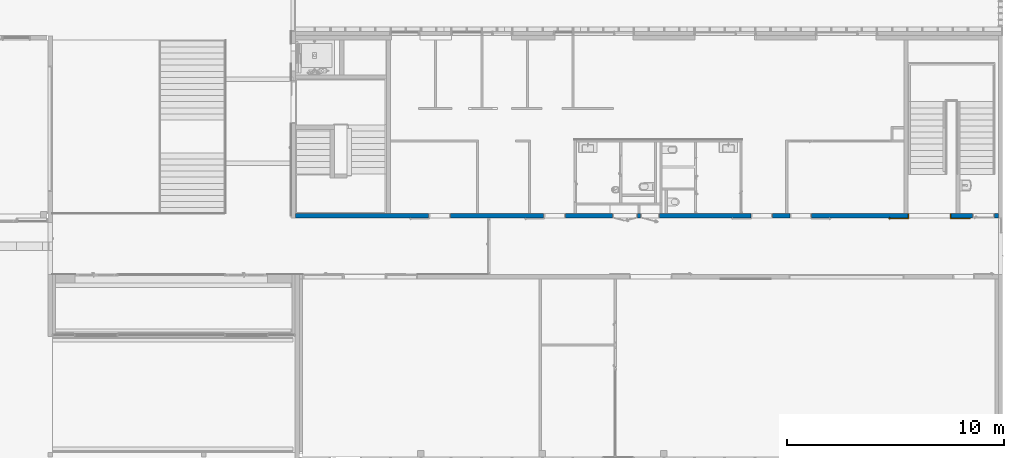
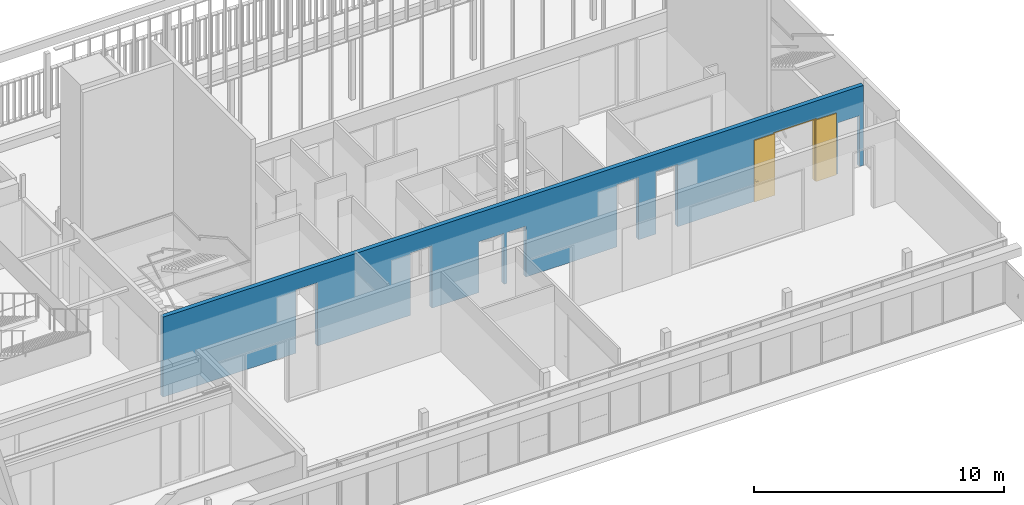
# One storey, part 164 of 240: 1 door, 1 wall, 8 openings.
"""IFC2X3 building model written with IfcOpenShell, lengths in centimetres."""

from ifc_helpers import new_model, entity, si_unit, converted_unit, derived_unit, direction, frame, frame_2d, origin, place, context, subcontext, project, spatial, polyline, rectangle, extrude, clip, bounded_halfspace, faceted_brep, source, transform, mapped, material, material_list, layer, layer_set, layer_usage, type_object, type_shapes, element, fill, save


model = new_model("IFC2X3")

# Units and contexts
model_context = context("Model", 3, precision=0.001, world=origin(), true_north=direction((6.12303176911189e-17, 1.0)))
body_context = subcontext(model_context, "Body", "Model", "MODEL_VIEW")
ifc_project = project(units=[si_unit("LENGTHUNIT", "METRE", prefix="CENTI"), si_unit("AREAUNIT", "SQUARE_METRE"), si_unit("VOLUMEUNIT", "CUBIC_METRE"), converted_unit("PLANEANGLEUNIT", "DEGREE", entity("IfcRatioMeasure", 0.0174532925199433), si_unit("PLANEANGLEUNIT", "RADIAN"), dimensions=[0, 0, 0, 0, 0, 0, 0]), si_unit("MASSUNIT", "GRAM", prefix="KILO"), derived_unit("MASSDENSITYUNIT", [(si_unit("MASSUNIT", "GRAM", prefix="KILO"), 1), (si_unit("LENGTHUNIT", "METRE"), -3)]), si_unit("TIMEUNIT", "SECOND"), si_unit("FREQUENCYUNIT", "HERTZ"), si_unit("THERMODYNAMICTEMPERATUREUNIT", "DEGREE_CELSIUS"), derived_unit("THERMALTRANSMITTANCEUNIT", [(si_unit("MASSUNIT", "GRAM", prefix="KILO"), 1), (si_unit("THERMODYNAMICTEMPERATUREUNIT", "KELVIN"), -1), (si_unit("TIMEUNIT", "SECOND"), -3)]), derived_unit("VOLUMETRICFLOWRATEUNIT", [(si_unit("LENGTHUNIT", "METRE"), 3), (si_unit("TIMEUNIT", "SECOND"), -1)]), si_unit("ELECTRICCURRENTUNIT", "AMPERE"), si_unit("ELECTRICVOLTAGEUNIT", "VOLT"), si_unit("POWERUNIT", "WATT"), si_unit("FORCEUNIT", "NEWTON", prefix="KILO"), si_unit("ILLUMINANCEUNIT", "LUX"), si_unit("LUMINOUSFLUXUNIT", "LUMEN"), si_unit("LUMINOUSINTENSITYUNIT", "CANDELA"), derived_unit("USERDEFINED", [(si_unit("MASSUNIT", "GRAM", prefix="KILO"), -1), (si_unit("LENGTHUNIT", "METRE"), -2), (si_unit("TIMEUNIT", "SECOND"), 3), (si_unit("LUMINOUSFLUXUNIT", "LUMEN"), 1)]), derived_unit("LINEARVELOCITYUNIT", [(si_unit("LENGTHUNIT", "METRE"), 1), (si_unit("TIMEUNIT", "SECOND"), -1)]), si_unit("PRESSUREUNIT", "PASCAL"), derived_unit("USERDEFINED", [(si_unit("LENGTHUNIT", "METRE"), -2), (si_unit("MASSUNIT", "GRAM", prefix="KILO"), 1), (si_unit("TIMEUNIT", "SECOND"), -2)])], contexts=[model_context])

# Site, building, storey
site_placement = place(None, frame((-2781.94577612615, 7442.24238424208, 0.0)))
site = spatial("IfcSite", under=ifc_project, at=site_placement, Name="Default", CompositionType="ELEMENT")
building_placement = place(site_placement, origin())
building = spatial("IfcBuilding", under=site, at=building_placement, CompositionType="ELEMENT")
storey_placement = place(building_placement, origin())
storey = spatial("IfcBuildingStorey", under=building, at=storey_placement, Name="N00 - COO", CompositionType="ELEMENT", Elevation=0.0)

# Wall, openings, door
ifc_material_1 = material(Name="01 - Maçonnerie")
ifc_layer = layer(ifc_material_1, 20.0)
ifc_layer_set = layer_set([ifc_layer], Name="Mur de base:04 - Structure - béton - 20cm")
ifc_layer_usage = layer_usage(ifc_layer_set, "AXIS2", "NEGATIVE", 10.0)
wall_type = type_object("IfcWallType", Name="Mur de base:04 - Structure - béton - 20cm", PredefinedType="STANDARD", material=ifc_layer_set)
wall_placement = place(building_placement, frame((-3647.99987968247, -1920.07903364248, 0.0)))
wall = element("IfcWallStandardCase", 1, at=wall_placement, inside=storey, type_object=wall_type, material=ifc_layer_usage, Name="Mur de base:04 - Structure - béton - 20cm", ObjectType="Mur de base:04 - Structure - béton - 20cm", context=body_context, shape_type="Clipping", body=[
    clip(extrude(rectangle(XDim=3237.99999684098, YDim=19.9999999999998, at=frame_2d((1618.99999842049, -2.66453525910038e-15), x_axis=(-1.0, 0.0))), origin(), (0.0, 0.0, 1.0), 391.0), bounded_halfspace(frame((0.0, -10.0, 391.0), z_axis=(0.0, 0.0, -1.0), x_axis=(0.0, 1.0, 0.0)), True, frame((0.0, -10.0, 391.0)), polyline([(0.0, 0.0), (3238.0, 0.0), (3238.0, 20.0), (3062.69999684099, 20.0), (3042.69999684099, 20.0), (2268.49999684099, 20.0), (2258.49999684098, 20.0), (2058.49999684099, 20.0), (2048.49999684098, 20.0), (1848.49999684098, 20.0), (1838.49999684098, 20.0), (1713.49999684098, 20.0), (1703.49999684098, 20.0), (1293.99999684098, 20.0), (1283.99999684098, 20.0), (1083.99999684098, 20.0), (1073.99999684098, 20.0), (843.999996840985, 20.0), (833.999996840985, 20.0), (438.699996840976, 20.0), (0.0, 20.0), (0.0, 0.0)]))),
])
opening_1_placement = place(wall_placement, frame((3019.69999684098, 10.0, 0.0)))
opening_1 = element("IfcOpeningElement", 2, at=opening_1_placement, cuts=wall, Name="Int. Double:PP (1.90m x 3.00m):1", ObjectType="Opening", context=body_context, shape_type="SweptSolid", body=[
    extrude(rectangle(XDim=304.500000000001, YDim=197.0, at=frame_2d((152.250000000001, 98.5), x_axis=(1.0, 0.0))), frame((0.0, 0.0, 0.0), z_axis=(0.0, -1.0, 0.0), x_axis=(0.0, 0.0, 1.0)), (0.0, 0.0, 1.0), 20.0),
])
opening_2_placement = place(wall_placement, frame((1243.99999684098, 10.0, 0.0)))
element("IfcOpeningElement", 3, at=opening_2_placement, cuts=wall, Name="Int. Simple:PV (0.93m x 3.00m):1", ObjectType="Opening", context=body_context, shape_type="SweptSolid", body=[
    extrude(rectangle(XDim=304.500000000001, YDim=99.9999999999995, at=frame_2d((152.250000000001, 49.9999999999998), x_axis=(1.0, 0.0))), frame((0.0, 0.0, 0.0), z_axis=(0.0, -1.0, 0.0), x_axis=(0.0, 0.0, 1.0)), (0.0, 0.0, 1.0), 20.0),
])
opening_3_placement = place(wall_placement, frame((2198.49999684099, 10.0, 0.0)))
element("IfcOpeningElement", 4, at=opening_3_placement, cuts=wall, Name="Int. Simple:PV (0.93m x 3.00m):1", ObjectType="Opening", context=body_context, shape_type="SweptSolid", body=[
    extrude(rectangle(XDim=304.500000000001, YDim=99.9999999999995, at=frame_2d((152.250000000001, 49.9999999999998), x_axis=(1.0, 0.0))), frame((0.0, 0.0, 0.0), z_axis=(0.0, -1.0, 0.0), x_axis=(0.0, 0.0, 1.0)), (0.0, 0.0, 1.0), 20.0),
])
opening_4_placement = place(wall_placement, frame((713.999996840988, 10.0, 0.0)))
element("IfcOpeningElement", 5, at=opening_4_placement, cuts=wall, Name="Int. Simple:PP (0.93m x 3.06m):1", ObjectType="Opening", context=body_context, shape_type="SweptSolid", body=[
    extrude(rectangle(XDim=309.500000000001, YDim=99.9999999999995, at=frame_2d((154.750000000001, 49.9999999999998), x_axis=(1.0, 0.0))), frame((0.0, 0.0, 0.0), z_axis=(0.0, -1.0, 0.0), x_axis=(0.0, 0.0, 1.0)), (0.0, 0.0, 1.0), 20.0),
])
opening_5_placement = place(wall_placement, frame((1576.99999684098, 10.0, 0.0)))
element("IfcOpeningElement", 6, at=opening_5_placement, cuts=wall, Name="Int. Double:PP Placard (1.10m x 2.50m):1", ObjectType="Opening", context=body_context, shape_type="SweptSolid", body=[
    extrude(rectangle(XDim=248.500000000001, YDim=117.0, at=frame_2d((124.250000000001, 58.5000000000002), x_axis=(1.0, 0.0))), frame((0.0, 0.0, 0.0), z_axis=(0.0, -1.0, 0.0), x_axis=(0.0, 0.0, 1.0)), (0.0, 0.0, 1.0), 20.0),
])
opening_6_placement = place(wall_placement, frame((1677.0, 10.0, 0.0)))
element("IfcOpeningElement", 7, at=opening_6_placement, cuts=wall, Name="Int. Simple:PP Placard (0.80m x 2.50m):1", ObjectType="Opening", context=body_context, shape_type="SweptSolid", body=[
    extrude(rectangle(XDim=248.500000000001, YDim=86.9999999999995, at=frame_2d((124.250000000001, 43.4999999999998), x_axis=(1.0, 0.0))), frame((0.0, 0.0, 0.0), z_axis=(0.0, -1.0, 0.0), x_axis=(0.0, 0.0, 1.0)), (0.0, 0.0, 1.0), 20.0),
])
opening_7_placement = place(wall_placement, frame((2378.49999684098, 10.0, 0.0)))
element("IfcOpeningElement", 8, at=opening_7_placement, cuts=wall, Name="Int. Simple:PV (0.93m x 3.00m):1", ObjectType="Opening", context=body_context, shape_type="SweptSolid", body=[
    extrude(rectangle(XDim=304.500000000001, YDim=99.9999999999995, at=frame_2d((152.250000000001, 49.9999999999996), x_axis=(1.0, 0.0))), frame((0.0, 0.0, 0.0), z_axis=(0.0, -1.0, 0.0), x_axis=(0.0, 0.0, 1.0)), (0.0, 0.0, 1.0), 20.0),
])
opening_8_placement = place(wall_placement, frame((3220.0, 10.0, 0.0)))
element("IfcOpeningElement", 9, at=opening_8_placement, cuts=wall, Name="Int. Simple:PP simple (0.93m x 2.50m):1", ObjectType="Opening", context=body_context, shape_type="SweptSolid", body=[
    extrude(rectangle(XDim=248.500000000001, YDim=99.9999999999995, at=frame_2d((124.250000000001, 49.9999999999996), x_axis=(1.0, 0.0))), frame((0.0, 0.0, 0.0), z_axis=(0.0, -1.0, 0.0), x_axis=(0.0, 0.0, 1.0)), (0.0, 0.0, 1.0), 20.0),
])
ifc_material_2 = material(Name="Bois - Panneau de porte")
ifc_material_3 = material(Name="Finition Peinture - Blanc satiné")
ifc_material_4 = material(Name="Bois - Cadre de porte")
ifc_material_list_1 = material_list([ifc_material_2, ifc_material_3, ifc_material_4])
ifc_material_list_2 = material_list([ifc_material_2, ifc_material_3, ifc_material_4])
door_style = type_object("IfcDoorStyle", Name="PP (1.90m x 3.00m)", ConstructionType="NOTDEFINED", OperationType="DOUBLE_DOOR_SINGLE_SWING", ParameterTakesPrecedence=False, Sizeable=False, material=ifc_material_list_2)
shared_shape = source(origin(), body_context, "Body", "Brep", [
    faceted_brep([(295.500000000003, -4.0, 301.0), (200.500000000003, -4.0, 301.0), (200.500000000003, -4.0, 0.0), (295.500000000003, -4.0, 0.0), (295.500000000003, 0.0, 301.0), (295.500000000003, 0.0, 0.0), (200.500000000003, 0.0, 0.0), (200.500000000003, 0.0, 301.0)], [[[0, 1, 2, 3]], [[4, 5, 6, 7]], [[1, 0, 4, 7]], [[2, 1, 7, 6]], [[3, 2, 6, 5]], [[0, 3, 5, 4]]]),
    faceted_brep([(-80.4999999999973, 0.499999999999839, 87.0), (-80.4999999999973, 0.499999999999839, 108.0), (-79.5352761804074, 0.499999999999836, 108.399601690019), (-78.4999999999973, 0.499999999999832, 108.535898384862), (-77.4647238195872, 0.499999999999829, 108.399601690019), (-76.4999999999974, 0.499999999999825, 108.0), (-76.4999999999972, 0.499999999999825, 87.0), (-77.4647238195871, 0.499999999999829, 86.6003983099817), (-78.4999999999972, 0.499999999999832, 86.464101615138), (-79.5352761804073, 0.499999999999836, 86.6003983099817), (-80.4999999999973, 0.0, 108.0), (-80.4999999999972, 0.0, 87.0), (-79.5352761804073, 0.0, 86.6003983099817), (-78.4999999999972, 0.0, 86.464101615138), (-77.4647238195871, 0.0, 86.6003983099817), (-76.4999999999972, 0.0, 87.0), (-76.4999999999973, 0.0, 108.0), (-77.4647238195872, 0.0, 108.399601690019), (-78.4999999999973, 0.0, 108.535898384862), (-79.5352761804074, 0.0, 108.399601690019)], [[[0, 1, 2, 3, 4, 5, 6, 7, 8, 9]], [[10, 11, 12, 13, 14, 15, 16, 17, 18, 19]], [[9, 12, 11, 0]], [[8, 13, 12, 9]], [[7, 14, 13, 8]], [[7, 6, 15, 14]], [[15, 6, 5, 16]], [[4, 17, 16, 5]], [[3, 18, 17, 4]], [[2, 19, 18, 3]], [[2, 1, 10, 19]], [[11, 10, 1, 0]]]),
    faceted_brep([(-80.4999999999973, -4.0, 87.0), (-80.4999999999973, -4.0, 108.0), (-79.5352761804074, -4.0, 108.399601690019), (-78.4999999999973, -4.0, 108.535898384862), (-77.4647238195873, -4.0, 108.399601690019), (-76.4999999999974, -4.0, 108.0), (-76.4999999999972, -4.0, 87.0), (-77.4647238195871, -4.0, 86.6003983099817), (-78.4999999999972, -4.0, 86.464101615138), (-79.5352761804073, -4.0, 86.6003983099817), (-78.4999999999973, -4.50000000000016, 108.535898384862), (-79.5352761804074, -4.50000000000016, 108.399601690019), (-80.4999999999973, -4.50000000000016, 108.0), (-80.4999999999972, -4.50000000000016, 87.0), (-79.5352761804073, -4.50000000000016, 86.6003983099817), (-78.4999999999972, -4.50000000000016, 86.464101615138), (-77.4647238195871, -4.50000000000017, 86.6003983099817), (-76.4999999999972, -4.50000000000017, 87.0), (-76.4999999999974, -4.50000000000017, 108.0), (-77.4647238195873, -4.50000000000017, 108.399601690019)], [[[0, 1, 2, 3, 4, 5, 6, 7, 8, 9]], [[10, 11, 12, 13, 14, 15, 16, 17, 18, 19]], [[4, 19, 18, 5]], [[3, 10, 19, 4]], [[2, 11, 10, 3]], [[2, 1, 12, 11]], [[13, 12, 1, 0]], [[9, 14, 13, 0]], [[8, 15, 14, 9]], [[7, 16, 15, 8]], [[7, 6, 17, 16]], [[17, 6, 5, 18]]]),
    faceted_brep([(-78.2974701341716, 0.499999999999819, 100.778044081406), (-78.7025298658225, 0.49999999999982, 100.778044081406), (-79.0999999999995, 0.499999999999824, 100.699999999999), (-79.1000000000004, 0.499999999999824, 99.2999999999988), (-78.7025298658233, 0.49999999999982, 99.221955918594), (-78.2974701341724, 0.499999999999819, 99.2219559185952), (-77.8999999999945, 0.499999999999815, 99.3000000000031), (-77.8999999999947, 0.499999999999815, 100.7), (-78.7025298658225, 3.10045754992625, 100.778044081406), (-79.0999999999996, 3.26509507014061, 100.7), (-78.2974701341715, 2.93267631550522, 100.778044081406), (-76.9298602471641, 4.30028620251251, 100.778044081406), (-77.0976414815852, 4.70534593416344, 100.778044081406), (-77.8999999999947, 2.76803879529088, 100.7), (-77.8999999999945, 2.76803879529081, 99.3000000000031), (-78.2974701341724, 2.93267631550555, 99.2219559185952), (-78.7025298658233, 3.10045754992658, 99.221955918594), (-77.0976414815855, 4.70534593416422, 99.221955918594), (-76.9298602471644, 4.3002862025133, 99.2219559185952), (-79.1000000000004, 3.26509507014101, 99.2999999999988), (-77.2622790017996, 5.10281606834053, 100.7), (-76.7652227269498, 3.9028160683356, 100.7), (-76.7652227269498, 3.90281606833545, 99.3000000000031), (-77.2622790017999, 5.10281606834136, 99.2999999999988), (-68.4981359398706, 5.10281606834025, 100.7), (-68.4981359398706, 4.70534593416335, 100.778044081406), (-68.4981359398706, 4.30028620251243, 100.778044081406), (-68.4981359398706, 3.90281606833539, 100.699999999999), (-68.4981359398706, 3.90281606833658, 99.3000000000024), (-68.4981359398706, 4.30028620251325, 99.2219559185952), (-68.4981359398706, 4.70534593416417, 99.221955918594), (-68.4981359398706, 5.10281606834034, 99.2999999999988), (-72.7139980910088, 4.50281606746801, 100.78786867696), (-73.2692302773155, 5.10281606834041, 100.7), (-72.6316793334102, 3.90281606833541, 100.7), (-72.6316793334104, 3.90281606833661, 99.3000000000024), (-72.7139981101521, 4.50281607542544, 99.2121313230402), (-73.2692310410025, 5.10281606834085, 99.2999999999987)], [[[0, 1, 2, 3, 4, 5, 6, 7]], [[2, 1, 8, 9]], [[1, 0, 10, 11, 12, 8]], [[0, 7, 13, 10]], [[14, 13, 7, 6]], [[5, 15, 14, 6]], [[5, 4, 16, 17, 18, 15]], [[3, 19, 16, 4]], [[9, 19, 3, 2]], [[9, 8, 12, 20]], [[10, 13, 21, 11]], [[22, 21, 13, 14]], [[14, 15, 18, 22]], [[16, 19, 23, 17]], [[20, 23, 19, 9]], [[24, 25, 26, 27, 28, 29, 30, 31]], [[32, 25, 33]], [[33, 25, 24]], [[33, 20, 12]], [[11, 34, 32]], [[34, 11, 21]], [[27, 26, 34]], [[32, 26, 25]], [[32, 34, 26]], [[32, 33, 12]], [[11, 32, 12]], [[21, 22, 35, 28, 27, 34]], [[36, 29, 35]], [[30, 36, 37]], [[18, 35, 22]], [[29, 28, 35]], [[30, 37, 31]], [[37, 17, 23]], [[36, 17, 37]], [[36, 18, 17]], [[36, 35, 18]], [[29, 36, 30]], [[23, 20, 33, 24, 31, 37]]]),
    faceted_brep([(-78.2974701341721, -4.50000000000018, 99.2219559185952), (-78.702529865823, -4.50000000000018, 99.221955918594), (-79.0999999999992, -4.50000000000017, 99.2999999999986), (-79.0999999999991, -4.50000000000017, 100.7), (-78.7025298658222, -4.50000000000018, 100.778044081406), (-78.2974701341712, -4.50000000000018, 100.778044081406), (-77.8999999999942, -4.50000000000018, 100.7), (-77.8999999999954, -4.50000000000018, 99.3000000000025), (-77.8999999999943, -6.74852045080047, 100.7), (-77.8999999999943, -6.74852045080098, 99.3000000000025), (-78.2974701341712, -6.91315797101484, 100.778044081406), (-78.7025298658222, -7.08093920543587, 100.778044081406), (-77.0838906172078, -8.69957845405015, 100.778044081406), (-76.9161093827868, -8.29451872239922, 100.778044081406), (-79.0999999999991, -7.2455767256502, 100.7), (-79.0999999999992, -7.24557672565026, 99.2999999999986), (-78.7025298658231, -7.08093920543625, 99.221955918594), (-78.2974701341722, -6.91315797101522, 99.2219559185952), (-76.9161093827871, -8.29451872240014, 99.2219559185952), (-77.0838906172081, -8.69957845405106, 99.221955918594), (-76.7514718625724, -7.89704858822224, 100.7), (-76.7514718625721, -7.8970485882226, 99.3000000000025), (-77.2485281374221, -9.09704858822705, 100.7), (-77.2485281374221, -9.09704858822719, 99.2999999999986), (-68.4954216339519, -8.29451872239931, 100.778044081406), (-68.4954216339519, -8.69957845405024, 100.778044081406), (-68.4954216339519, -9.09704858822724, 100.7), (-68.4954216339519, -9.09704858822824, 99.2999999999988), (-68.4954216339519, -8.69957845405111, 99.221955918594), (-68.4954216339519, -8.29451872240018, 99.2219559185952), (-68.4954216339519, -7.89704858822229, 99.3000000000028), (-68.4954216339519, -7.89704858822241, 100.7), (-72.6234467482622, -7.89704858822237, 100.7), (-72.623447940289, -7.89704858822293, 99.3000000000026), (-72.7057655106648, -8.49704858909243, 100.78786867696), (-73.2554794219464, -9.09704858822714, 100.7), (-73.2554795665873, -9.09704858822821, 99.2999999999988), (-72.7057654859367, -8.49704858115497, 99.2121313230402)], [[[0, 1, 2, 3, 4, 5, 6, 7]], [[8, 9, 7, 6]], [[5, 10, 8, 6]], [[5, 4, 11, 12, 13, 10]], [[3, 14, 11, 4]], [[14, 3, 2, 15]], [[2, 1, 16, 15]], [[1, 0, 17, 18, 19, 16]], [[0, 7, 9, 17]], [[20, 21, 9, 8]], [[8, 10, 13, 20]], [[14, 22, 12, 11]], [[23, 22, 14, 15]], [[15, 16, 19, 23]], [[17, 9, 21, 18]], [[24, 25, 26, 27, 28, 29, 30, 31]], [[21, 20, 32, 31, 30, 33]], [[34, 24, 32]], [[25, 34, 35]], [[13, 32, 20]], [[24, 31, 32]], [[25, 35, 26]], [[35, 12, 22]], [[34, 12, 35]], [[34, 13, 12]], [[34, 32, 13]], [[24, 34, 25]], [[22, 23, 36, 27, 26, 35]], [[37, 28, 36]], [[36, 28, 27]], [[36, 23, 19]], [[18, 33, 37]], [[33, 18, 21]], [[30, 29, 33]], [[37, 29, 28]], [[37, 33, 29]], [[37, 36, 19]], [[18, 37, 19]]]),
    faceted_brep([(-84.4999999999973, -4.0, 301.0), (-84.4999999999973, -4.0, 0.0), (10.5000000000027, -4.0, 0.0), (10.5000000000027, -4.0, 301.0), (-84.4999999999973, 0.0, 301.0), (10.5000000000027, 0.0, 301.0), (10.5000000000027, 0.0, 0.0), (-84.4999999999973, 0.0, 0.0)], [[[0, 1, 2, 3]], [[4, 5, 6, 7]], [[3, 5, 4, 0]], [[2, 6, 5, 3]], [[1, 7, 6, 2]], [[0, 4, 7, 1]]]),
    faceted_brep([(204.0, 0.0, 0.0), (200.500000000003, 0.0, 0.0), (200.500000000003, 4.0, 0.0), (199.0, 4.0, 0.0), (199.0, 20.0, 0.0), (204.0, 20.0, 0.0), (204.0, 20.0, 304.500000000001), (204.0, 0.0, 304.500000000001), (199.0, 20.0, 299.5), (12.0, 20.0, 299.5), (12.0, 20.0, 0.0), (7.0, 20.0, 0.0), (7.0, 20.0, 304.500000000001), (199.0, 4.0, 299.5), (200.500000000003, 4.0, 301.0), (10.5000000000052, 4.0, 301.0), (10.5000000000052, 4.0, 0.0), (12.0, 4.0, 0.0), (12.0, 4.0, 299.5), (200.500000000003, 0.0, 301.0), (7.0, 0.0, 304.500000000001), (7.0, 0.0, 0.0), (10.5000000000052, 0.0, 0.0), (10.5000000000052, 0.0, 301.0)], [[[0, 1, 2, 3, 4, 5]], [[5, 6, 7, 0]], [[4, 8, 9, 10, 11, 12, 6, 5]], [[3, 13, 8, 4]], [[2, 14, 15, 16, 17, 18, 13, 3]], [[1, 19, 14, 2]], [[0, 7, 20, 21, 22, 23, 19, 1]], [[12, 11, 21, 20]], [[21, 11, 10, 17, 16, 22]], [[18, 17, 10, 9]], [[23, 22, 16, 15]], [[6, 12, 20, 7]], [[13, 18, 9, 8]], [[19, 23, 15, 14]]]),
    faceted_brep([(202.500000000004, 20.0, 0.0), (202.500000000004, 20.5000000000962, 0.0), (205.500000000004, 20.5000000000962, 0.0), (205.500000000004, 20.0, 0.0), (205.500000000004, 20.0, 306.0), (5.50000000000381, 20.0, 306.0), (5.50000000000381, 20.0, 0.0), (8.50000000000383, 20.0, 0.0), (8.50000000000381, 20.0, 303.0), (202.500000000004, 20.0, 303.0), (205.500000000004, 20.5000000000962, 306.0), (202.500000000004, 20.5000000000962, 303.0), (8.50000000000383, 20.5000000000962, 303.0), (8.50000000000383, 20.5000000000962, 0.0), (5.50000000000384, 20.5000000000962, 0.0), (5.50000000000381, 20.5000000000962, 306.0)], [[[0, 1, 2, 3]], [[3, 4, 5, 6, 7, 8, 9, 0]], [[2, 10, 4, 3]], [[1, 11, 12, 13, 14, 15, 10, 2]], [[0, 9, 11, 1]], [[8, 7, 13, 12]], [[7, 6, 14, 13]], [[15, 14, 6, 5]], [[9, 8, 12, 11]], [[10, 15, 5, 4]]]),
    faceted_brep([(205.500000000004, -0.500000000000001, 0.0), (205.500000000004, -0.500000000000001, 306.0), (5.50000000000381, -0.500000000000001, 306.0), (5.50000000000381, -0.500000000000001, 0.0), (8.50000000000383, -0.500000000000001, 0.0), (8.50000000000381, -0.500000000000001, 303.0), (202.500000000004, -0.500000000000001, 303.0), (202.500000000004, -0.500000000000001, 0.0), (205.500000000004, 0.0, 0.0), (205.500000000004, 0.0, 306.0), (202.500000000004, 0.0, 0.0), (202.500000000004, 0.0, 303.0), (8.50000000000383, 0.0, 303.0), (8.50000000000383, 0.0, 0.0), (5.50000000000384, 0.0, 0.0), (5.50000000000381, 0.0, 306.0)], [[[0, 1, 2, 3, 4, 5, 6, 7]], [[8, 9, 1, 0]], [[10, 11, 12, 13, 14, 15, 9, 8]], [[7, 6, 11, 10]], [[5, 4, 13, 12]], [[15, 14, 3, 2]], [[6, 5, 12, 11]], [[9, 15, 2, 1]], [[4, 3, 14, 13]], [[7, 10, 8, 0]]]),
])
type_shapes(door_style, [shared_shape])
door_placement = place(opening_1_placement, frame((-204.0, -20.0, 0.0)))
door = element("IfcDoor", 10, at=door_placement, inside=storey, type_object=door_style, material=ifc_material_list_1, Name="Int. Double:PP (1.90m x 3.00m)", ObjectType="Int. Double:PP (1.90m x 3.00m)", OverallHeight=304.500000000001, OverallWidth=197.0, context=body_context, shape_type="MappedRepresentation", body=[
    mapped(shared_shape, transform((0.0, 0.0, 0.0), scale=1.0)),
])
fill(opening_1, door)

save(model, "model.ifc")
